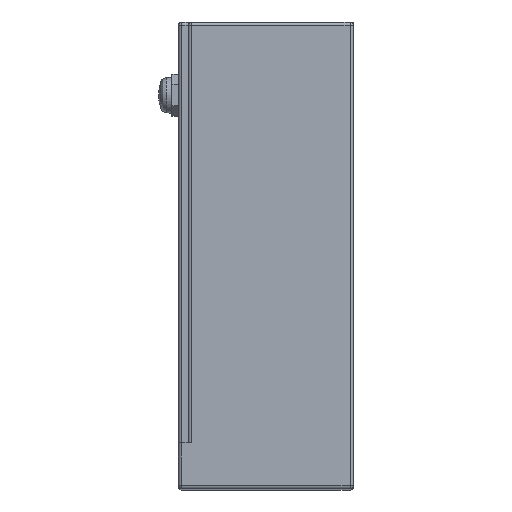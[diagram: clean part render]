
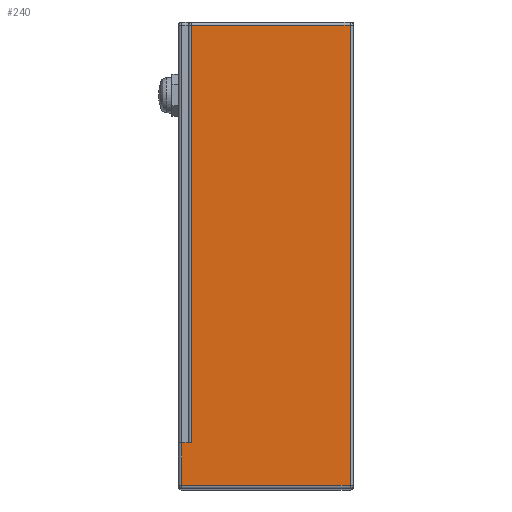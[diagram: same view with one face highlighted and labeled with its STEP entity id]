
A CAD part, top view. The second image highlights one B-rep face of the part: STEP entity #240.
In plain terms, the highlighted planar face has unit normal (0, 0, 1) as drawn and (1, 0, 0) by its records, which use the part's own axes.
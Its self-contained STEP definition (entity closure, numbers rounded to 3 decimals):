
#240=ADVANCED_FACE('',(#1482),#1481,.T.);
#1481=PLANE('',#5248);
#1482=FACE_OUTER_BOUND('',#5249,.T.);
#5245=CARTESIAN_POINT('',(93.,-5.06,76.5));
#5246=DIRECTION('',(1.,0.,0.));
#5247=DIRECTION('',(0.,0.,-1.));
#5248=AXIS2_PLACEMENT_3D('',#5245,#5246,#5247);
#5249=EDGE_LOOP('',(#7479,#7480,#7481,#7482,#7483,#7484));
#7479=ORIENTED_EDGE('',*,*,#9411,.F.);
#7480=ORIENTED_EDGE('',*,*,#9412,.T.);
#7481=ORIENTED_EDGE('',*,*,#9413,.T.);
#7482=ORIENTED_EDGE('',*,*,#9414,.T.);
#7483=ORIENTED_EDGE('',*,*,#9408,.T.);
#7484=ORIENTED_EDGE('',*,*,#9415,.T.);
#9408=EDGE_CURVE('',#12384,#12385,#12386,.T.);
#9411=EDGE_CURVE('',#12404,#12405,#12406,.T.);
#9412=EDGE_CURVE('',#12404,#12412,#12413,.T.);
#9413=EDGE_CURVE('',#12412,#12419,#12420,.T.);
#9414=EDGE_CURVE('',#12419,#12384,#12426,.T.);
#9415=EDGE_CURVE('',#12385,#12405,#12432,.T.);
#12384=VERTEX_POINT('',#18573);
#12385=VERTEX_POINT('',#18574);
#12386=LINE('',#18575,#18576);
#12404=VERTEX_POINT('',#18586);
#12405=VERTEX_POINT('',#18587);
#12406=LINE('',#18588,#18589);
#12412=VERTEX_POINT('',#18591);
#12413=LINE('',#18592,#18593);
#12419=VERTEX_POINT('',#18595);
#12420=LINE('',#18596,#18597);
#12426=LINE('',#18599,#18600);
#12432=LINE('',#18602,#18603);
#18573=CARTESIAN_POINT('',(93.,23.1,69.5));
#18574=CARTESIAN_POINT('',(93.,-2.5,69.5));
#18575=CARTESIAN_POINT('',(93.,23.1,69.5));
#18576=VECTOR('',#18577,25.6);
#18577=DIRECTION('',(0.,-1.,0.));
#18586=CARTESIAN_POINT('',(93.,21.6,-0.5));
#18587=CARTESIAN_POINT('',(93.,-2.5,-0.5));
#18588=CARTESIAN_POINT('',(93.,21.6,-0.5));
#18589=VECTOR('',#18590,24.1);
#18590=DIRECTION('',(0.,-1.,0.));
#18591=CARTESIAN_POINT('',(93.,21.6,63.));
#18592=CARTESIAN_POINT('',(93.,21.6,-0.5));
#18593=VECTOR('',#18594,63.5);
#18594=DIRECTION('',(0.,0.,1.));
#18595=CARTESIAN_POINT('',(93.,23.1,63.));
#18596=CARTESIAN_POINT('',(93.,21.6,63.));
#18597=VECTOR('',#18598,1.5);
#18598=DIRECTION('',(0.,1.,0.));
#18599=CARTESIAN_POINT('',(93.,23.1,63.));
#18600=VECTOR('',#18601,6.5);
#18601=DIRECTION('',(0.,0.,1.));
#18602=CARTESIAN_POINT('',(93.,-2.5,69.5));
#18603=VECTOR('',#18604,70.);
#18604=DIRECTION('',(0.,0.,-1.));
